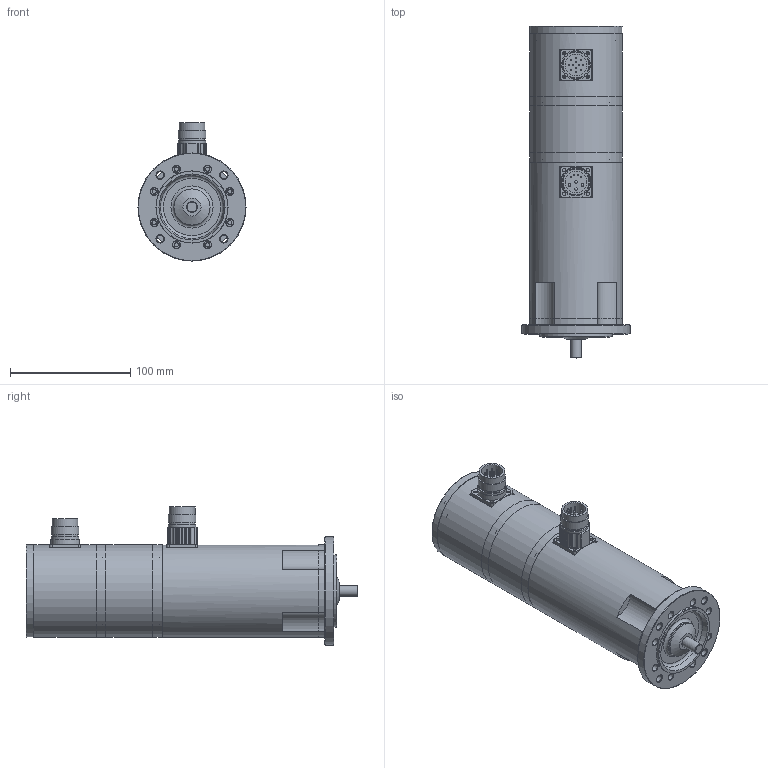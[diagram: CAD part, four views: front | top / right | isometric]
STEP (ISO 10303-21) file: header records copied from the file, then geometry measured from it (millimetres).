
FILE_DESCRIPTION(/* description */ (''),/* implementation_level */ '2;1');
FILE_NAME(/* name */ 'ksa_2x6e_mc_ixx',/* time_stamp */ '2007-03-13T08:45:20+01:00',/* author */ (''),/* organization */ (''),/* preprocessor_version */ 'ST-DEVELOPER v8',/* originating_system */ 'UNIGRAPHICS SOLUTIONS - UNIGRAPHICS 18.0',/* authorisation */ '');
FILE_SCHEMA (('AUTOMOTIVE_DESIGN { 1 2 10303 214 0 1 1 1 }'));
Length unit declared in the file: millimetre
Products named in the file (12): 014261_0; 064281_0; 089274_0; 089282_0; 112082_0; 014260_0; 06331002_0; DIN3760_org_A12x24x7_0; Rotor_SA 24.. E_0; Gehaeuse_SA 24.. E_0; 112068_0; KSA246_E-MC-I27_0
Assembly tree (12 placements, depth 2):
  KSA246_E-MC-I27_0
    112068_0
    Gehaeuse_SA 24.. E_0
    Rotor_SA 24.. E_0
    DIN3760_org_A12x24x7_0
    06331002_0
    014260_0
    112082_0  x2
    089282_0
    089274_0
    064281_0
    014261_0
Bounding box: 90 x 276.5 x 115 mm (x, y, z)
Volume: 612440 mm3; surface area: 192539.8 mm2
Topology: 12 solids, 12 shells, 501 faces, 1213 edges, 781 vertices
Faces by surface type: cylinder 247, plane 122, cone 91, torus 21, sphere 20
Full cylindrical faces by diameter (mm): 1 x16, 2 x4, 2.135 x4, 2.7 x8, 3.013 x14, 3.4 x16, 4 x2, 4.5 x16, 6 x12, 6.5 x8, 7 x2, 8 x16, 8.52 x1, 8.9 x1, 9 x1, 12 x2, 12.3 x1, 15 x2, 18 x2, 20 x6, 21 x3, 21.5 x2, 23 x5, 24 x3, 26 x2, 28 x1, 30 x2, 52 x1, 56 x2, 57 x3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
Entity records: 11172 total; most frequent: DIRECTION 2094, CARTESIAN_POINT 1797, ORIENTED_EDGE 1336, AXIS2_PLACEMENT_3D 988, EDGE_LOOP 847, EDGE_CURVE 668, FACE_BOUND 580, VERTEX_POINT 573
